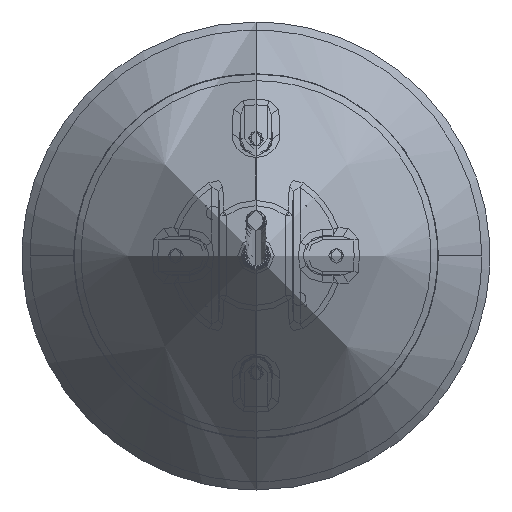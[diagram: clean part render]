
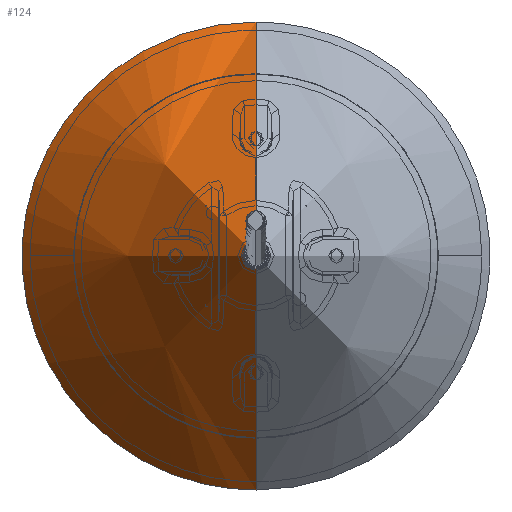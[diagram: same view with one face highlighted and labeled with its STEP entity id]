
A CAD part, top view. The second image highlights one B-rep face of the part: STEP entity #124.
In plain terms, the highlighted free-form (B-spline) face has degree [2, 1] with [9, 2] control points.
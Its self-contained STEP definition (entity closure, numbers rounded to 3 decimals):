
#124=ADVANCED_FACE('',(#306),#2558,.T.);
#306=FACE_OUTER_BOUND('',#493,.T.);
#493=EDGE_LOOP('',(#971,#972,#973,#974));
#971=ORIENTED_EDGE('',*,*,#1618,.F.);
#972=ORIENTED_EDGE('',*,*,#1477,.T.);
#973=ORIENTED_EDGE('',*,*,#1444,.F.);
#974=ORIENTED_EDGE('',*,*,#1619,.T.);
#1444=EDGE_CURVE('',#2259,#2256,#1827,.T.);
#1477=EDGE_CURVE('',#2257,#2256,#2012,.T.);
#1618=EDGE_CURVE('',#2257,#2258,#1880,.T.);
#1619=EDGE_CURVE('',#2259,#2258,#2107,.T.);
#1827=B_SPLINE_CURVE_WITH_KNOTS('',1,(#7077,#7078),.UNSPECIFIED.,.F.,.F.,
(2,2),(0.,53.298),.UNSPECIFIED.);
#1880=B_SPLINE_CURVE_WITH_KNOTS('',1,(#7743,#7744),.UNSPECIFIED.,.F.,.F.,
(2,2),(-53.298,0.),.UNSPECIFIED.);
#2012=(
BOUNDED_CURVE()
B_SPLINE_CURVE(2,(#7183,#7184,#7185,#7186,#7187),.UNSPECIFIED.,.F.,.F.)
B_SPLINE_CURVE_WITH_KNOTS((3,2,3),(-11.956,-8.967,
-5.978),.UNSPECIFIED.)
CURVE()
GEOMETRIC_REPRESENTATION_ITEM()
RATIONAL_B_SPLINE_CURVE((1.,0.707,1.,0.707,1.))
REPRESENTATION_ITEM('')
);
#2107=(
BOUNDED_CURVE()
B_SPLINE_CURVE(2,(#7745,#7746,#7747,#7748,#7749),.UNSPECIFIED.,.F.,.F.)
B_SPLINE_CURVE_WITH_KNOTS((3,2,3),(0.,54.978,109.956),
 .UNSPECIFIED.)
CURVE()
GEOMETRIC_REPRESENTATION_ITEM()
RATIONAL_B_SPLINE_CURVE((1.,0.707,1.,0.707,1.))
REPRESENTATION_ITEM('')
);
#2256=VERTEX_POINT('',#6523);
#2257=VERTEX_POINT('',#6524);
#2258=VERTEX_POINT('',#6525);
#2259=VERTEX_POINT('',#6526);
#2558=(
BOUNDED_SURFACE()
B_SPLINE_SURFACE(2,1,((#5528,#5529),(#5530,#5531),(#5532,#5533),(#5534,
#5535),(#5536,#5537),(#5538,#5539),(#5540,#5541),(#5542,#5543),(#5544,#5545)),
 .UNSPECIFIED.,.T.,.F.,.F.)
B_SPLINE_SURFACE_WITH_KNOTS((3,2,2,2,3),(2,2),(0.,60.476,120.952,
181.427,241.903),(0.,62.294),.UNSPECIFIED.)
GEOMETRIC_REPRESENTATION_ITEM()
RATIONAL_B_SPLINE_SURFACE(((1.,1.),(0.707,0.707),
(1.,1.),(0.707,0.707),(1.,1.),(0.707,
0.707),(1.,1.),(0.707,0.707),(1.,1.)))
REPRESENTATION_ITEM('')
SURFACE()
);
#5528=CARTESIAN_POINT('',(0.,0.151,-1470.068));
#5529=CARTESIAN_POINT('',(38.5,0.151,-1519.041));
#5530=CARTESIAN_POINT('',(0.,0.151,-1470.068));
#5531=CARTESIAN_POINT('',(38.5,-38.349,-1519.041));
#5532=CARTESIAN_POINT('',(0.,0.151,-1470.068));
#5533=CARTESIAN_POINT('',(0.,-38.349,-1519.041));
#5534=CARTESIAN_POINT('',(0.,0.151,-1470.068));
#5535=CARTESIAN_POINT('',(-38.5,-38.349,-1519.041));
#5536=CARTESIAN_POINT('',(0.,0.151,-1470.068));
#5537=CARTESIAN_POINT('',(-38.5,0.151,-1519.041));
#5538=CARTESIAN_POINT('',(0.,0.151,-1470.068));
#5539=CARTESIAN_POINT('',(-38.5,38.651,-1519.041));
#5540=CARTESIAN_POINT('',(0.,0.151,-1470.068));
#5541=CARTESIAN_POINT('',(0.,38.651,-1519.041));
#5542=CARTESIAN_POINT('',(0.,0.151,-1470.068));
#5543=CARTESIAN_POINT('',(38.5,38.651,-1519.041));
#5544=CARTESIAN_POINT('',(0.,0.151,-1470.068));
#5545=CARTESIAN_POINT('',(38.5,0.151,-1519.041));
#6523=CARTESIAN_POINT('',(0.,2.211,-1472.688));
#6524=CARTESIAN_POINT('',(0.,-1.909,-1472.688));
#6525=CARTESIAN_POINT('',(0.,-34.849,-1514.588));
#6526=CARTESIAN_POINT('',(0.,35.151,-1514.588));
#7077=CARTESIAN_POINT('',(0.,35.151,-1514.588));
#7078=CARTESIAN_POINT('',(0.,2.211,-1472.688));
#7183=CARTESIAN_POINT('',(0.,-1.909,-1472.688));
#7184=CARTESIAN_POINT('',(-2.06,-1.909,-1472.688));
#7185=CARTESIAN_POINT('',(-2.06,0.151,-1472.688));
#7186=CARTESIAN_POINT('',(-2.06,2.211,-1472.688));
#7187=CARTESIAN_POINT('',(0.,2.211,-1472.688));
#7743=CARTESIAN_POINT('',(0.,-1.909,-1472.688));
#7744=CARTESIAN_POINT('',(0.,-34.849,-1514.588));
#7745=CARTESIAN_POINT('',(0.,35.151,-1514.588));
#7746=CARTESIAN_POINT('',(-35.,35.151,-1514.588));
#7747=CARTESIAN_POINT('',(-35.,0.151,-1514.588));
#7748=CARTESIAN_POINT('',(-35.,-34.849,-1514.588));
#7749=CARTESIAN_POINT('',(0.,-34.849,-1514.588));
